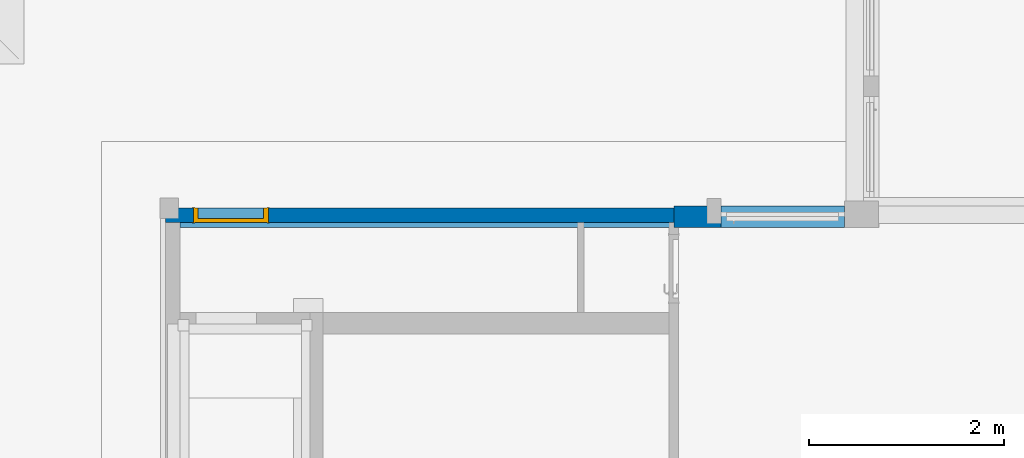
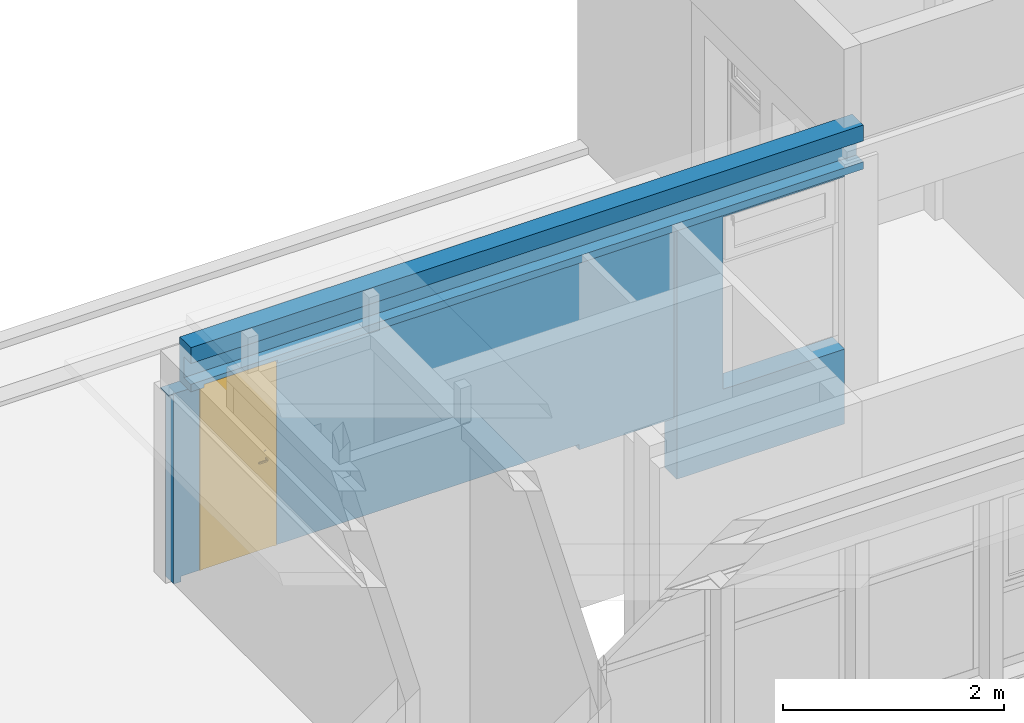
# One storey, part 33 of 49: 3 walls, 1 door, 4 openings.
"""IFC4 building model written with IfcOpenShell, lengths in metres."""

import ifcopenshell
import ifcopenshell.guid

model = None  # the IFC model being written
_history = None  # IfcOwnerHistory: only IFC2X3 demands one
_inside = {}  # id of a spatial element -> (the spatial element, [elements in it])
_under = {}  # id of a project, library or spatial element -> (it, [spatial elements below it])
_declared = {}  # id of a project -> (the project, [libraries it declares])
_typed = {}  # id of a type object -> (the type object, [elements of that type])
_made_of = {}  # id of a material, layer set ... -> (it, [elements and type objects made of it])


def new_model(schema):
    """Start an empty IFC model of exactly this schema.

    Asked for "IFC4X3", IfcOpenShell would pick the latest addendum, in which some entities
    have other attributes; the version numbers below select the first issue.
    IFC2X3 requires an IfcOwnerHistory on every rooted entity: one is made here for all.
    """
    global model, _history
    if schema == "IFC4X3":
        model = ifcopenshell.file(schema_version=(4, 3, 0, 0))
    else:
        model = ifcopenshell.file(schema=schema)
    _inside.clear()
    _under.clear()
    _declared.clear()
    _typed.clear()
    _made_of.clear()
    _history = None
    if model.schema == "IFC2X3":
        org = make("IfcOrganization", Name="unknown")
        user = make(
            "IfcPersonAndOrganization",
            ThePerson=make("IfcPerson", FamilyName="unknown"),
            TheOrganization=org,
        )
        app = make(
            "IfcApplication",
            ApplicationDeveloper=org,
            Version="unknown",
            ApplicationFullName="unknown",
            ApplicationIdentifier="unknown",
        )
        _history = make(
            "IfcOwnerHistory",
            OwningUser=user,
            OwningApplication=app,
            ChangeAction="ADDED",
            CreationDate=0,
        )
    return model


def make(cls, **values):
    """One entity of the class cls with the attributes given. An attribute that is None is left unset."""
    return model.create_entity(
        cls, **{name: value for name, value in values.items() if value is not None}
    )


def entity(cls, *values):
    """Any entity or typed value of the class cls, its attributes in the order of the schema. None: left unset."""
    e = model.create_entity(cls)
    for i, value in enumerate(values):
        if value is not None:
            e[i] = value
    return e


def rooted(cls, **values):
    """An entity with a GlobalId (a new one), such as an element, a storey or a relation."""
    return make(cls, GlobalId=ifcopenshell.guid.new(), OwnerHistory=_history, **values)


def si_unit(unit_type, name, prefix=None):
    """IfcSIUnit, for example si_unit("LENGTHUNIT", "METRE", prefix="MILLI")."""
    return make("IfcSIUnit", UnitType=unit_type, Prefix=prefix, Name=name)


def converted_unit(unit_type, name, factor, base, dimensions=None, offset=None):
    """IfcConversionBasedUnit, such as the inch: factor (a typed value) times the base unit."""
    return make(
        "IfcConversionBasedUnit"
        if offset is None
        else "IfcConversionBasedUnitWithOffset",
        ConversionOffset=offset,
        Dimensions=None
        if dimensions is None
        else entity("IfcDimensionalExponents", *dimensions),
        UnitType=unit_type,
        Name=name,
        ConversionFactor=make(
            "IfcMeasureWithUnit", ValueComponent=factor, UnitComponent=base
        ),
    )


def derived_unit(unit_type, elements):
    """IfcDerivedUnit: a product of units, each with its exponent."""
    return make(
        "IfcDerivedUnit",
        Elements=[
            make("IfcDerivedUnitElement", Unit=unit, Exponent=power)
            for unit, power in elements
        ],
        UnitType=unit_type,
    )


def assignment(units):
    """IfcUnitAssignment: the units of a project."""
    return None if units is None else make("IfcUnitAssignment", Units=units)


def point(xyz):
    """IfcCartesianPoint."""
    return None if xyz is None else make("IfcCartesianPoint", Coordinates=xyz)


def direction(xyz):
    """IfcDirection."""
    return None if xyz is None else make("IfcDirection", DirectionRatios=xyz)


def frame(location, z_axis=None, x_axis=None):
    """IfcAxis2Placement3D, a coordinate frame: its origin and axes. An axis left out is left unset."""
    return make(
        "IfcAxis2Placement3D",
        Location=point(location),
        Axis=direction(z_axis),
        RefDirection=direction(x_axis),
    )


def origin():
    """The frame at (0, 0, 0) with its axes left unset."""
    return frame((0.0, 0.0, 0.0))


def place(relative_to, where):
    """IfcLocalPlacement: puts the frame where relative to a parent placement (None: the world)."""
    return make(
        "IfcLocalPlacement", PlacementRelTo=relative_to, RelativePlacement=where
    )


def context(
    kind, dimensions, precision=None, world=None, true_north=None, identifier=None
):
    """IfcGeometricRepresentationContext, for example the 3D "Model" context."""
    return make(
        "IfcGeometricRepresentationContext",
        ContextIdentifier=identifier,
        ContextType=kind,
        CoordinateSpaceDimension=dimensions,
        Precision=precision,
        WorldCoordinateSystem=world,
        TrueNorth=true_north,
    )


def subcontext(parent, identifier, kind, view, scale=None):
    """IfcGeometricRepresentationSubContext, for example "Body" below "Model"."""
    return make(
        "IfcGeometricRepresentationSubContext",
        ContextIdentifier=identifier,
        ContextType=kind,
        ParentContext=parent,
        TargetScale=scale,
        TargetView=view,
    )


def project(units=None, contexts=None):
    """IfcProject with its units and contexts."""
    return rooted(
        "IfcProject",
        Name="project",
        RepresentationContexts=contexts,
        UnitsInContext=assignment(units),
    )


def spatial(cls, under=None, at=None, **own):
    """A site, building, storey or space (cls), placed at a placement, below another one or the project."""
    s = rooted(cls, ObjectPlacement=at, **own)
    if under is not None:
        _under.setdefault(under.id(), (under, []))[1].append(s)
    return s


def point_list(points):
    """IfcCartesianPointList2D or 3D."""
    cls = (
        "IfcCartesianPointList2D" if len(points[0]) == 2 else "IfcCartesianPointList3D"
    )
    return make(cls, CoordList=points)


def indexed_curve(points, segments=None, self_intersect=None):
    """IfcIndexedPolyCurve: lines and arcs through numbered points (the first is 1)."""
    return make(
        "IfcIndexedPolyCurve",
        Points=point_list(points),
        Segments=segments,
        SelfIntersect=self_intersect,
    )


def outline(outer, holes=None, kind="AREA"):
    """IfcArbitraryClosedProfileDef: a profile drawn as a closed curve; with holes, ...WithVoids."""
    if holes is None:
        return make("IfcArbitraryClosedProfileDef", ProfileType=kind, OuterCurve=outer)
    return make(
        "IfcArbitraryProfileDefWithVoids",
        ProfileType=kind,
        OuterCurve=outer,
        InnerCurves=holes,
    )


def extrude(swept, where, along, depth):
    """IfcExtrudedAreaSolid: the profile swept, set in the frame where, extruded along a direction by depth."""
    return make(
        "IfcExtrudedAreaSolid",
        SweptArea=swept,
        Position=where,
        ExtrudedDirection=direction(along),
        Depth=depth,
    )


def polygons(points, faces, closed=None, point_numbers=None):
    """IfcPolygonalFaceSet: a face is its outer loop, then its inner loops; points numbered from 1."""
    made = []
    for loops in faces:
        if len(loops) == 1:
            made.append(make("IfcIndexedPolygonalFace", CoordIndex=loops[0]))
        else:
            made.append(
                make(
                    "IfcIndexedPolygonalFaceWithVoids",
                    CoordIndex=loops[0],
                    InnerCoordIndices=loops[1:],
                )
            )
    return make(
        "IfcPolygonalFaceSet",
        Coordinates=point_list(points),
        Closed=closed,
        Faces=made,
        PnIndex=point_numbers,
    )


def shape(context_of_items, identifier, shape_type, items):
    """IfcShapeRepresentation: the items that make up one representation, for example the "Body"."""
    return make(
        "IfcShapeRepresentation",
        ContextOfItems=context_of_items,
        RepresentationIdentifier=identifier,
        RepresentationType=shape_type,
        Items=items,
    )


def source(mapping_origin, context_of_items, identifier, shape_type, items):
    """IfcRepresentationMap: a shape defined once, which mapped items show again and again."""
    return make(
        "IfcRepresentationMap",
        MappingOrigin=mapping_origin,
        MappedRepresentation=shape(context_of_items, identifier, shape_type, items),
    )


def transform(
    local_origin,
    x_axis=None,
    y_axis=None,
    z_axis=None,
    scale=None,
    scale2=None,
    scale3=None,
    uniform=True,
):
    """IfcCartesianTransformationOperator3D, or its non-uniform kind. x_axis, y_axis, z_axis: its Axis1, 2, 3."""
    if uniform:
        return make(
            "IfcCartesianTransformationOperator3D",
            Axis1=direction(x_axis),
            Axis2=direction(y_axis),
            LocalOrigin=point(local_origin),
            Scale=scale,
            Axis3=direction(z_axis),
        )
    return make(
        "IfcCartesianTransformationOperator3DnonUniform",
        Axis1=direction(x_axis),
        Axis2=direction(y_axis),
        LocalOrigin=point(local_origin),
        Scale=scale,
        Axis3=direction(z_axis),
        Scale2=scale2,
        Scale3=scale3,
    )


def mapped(mapping_source, mapping_target):
    """IfcMappedItem: shows the shape of a source again, moved by a transform."""
    return make(
        "IfcMappedItem", MappingSource=mapping_source, MappingTarget=mapping_target
    )


def material(Name=None, Category=None):
    """IfcMaterial."""
    return make("IfcMaterial", Name=Name, Category=Category)


def material_list(materials):
    """IfcMaterialList."""
    return make("IfcMaterialList", Materials=materials)


def layer(
    of_material, thickness, ventilated=None, Name=None, Category=None, Priority=None
):
    """IfcMaterialLayer: one layer of a wall or slab, of a material (None: an air gap)."""
    return make(
        "IfcMaterialLayer",
        Material=of_material,
        LayerThickness=thickness,
        IsVentilated=ventilated,
        Name=Name,
        Category=Category,
        Priority=Priority,
    )


def layer_set(layers, Name=None):
    """IfcMaterialLayerSet."""
    return make("IfcMaterialLayerSet", MaterialLayers=layers, LayerSetName=Name)


def constituent(of_material, Name=None, Category=None, fraction=None):
    """IfcMaterialConstituent: one of the materials an element consists of."""
    return make(
        "IfcMaterialConstituent",
        Name=Name,
        Material=of_material,
        Fraction=fraction,
        Category=Category,
    )


def constituent_set(constituents=None, Name=None):
    """IfcMaterialConstituentSet."""
    return make(
        "IfcMaterialConstituentSet", Name=Name, MaterialConstituents=constituents
    )


def made_of(thing, what):
    """Note that an element or type object is made of a material, layer set ...; save() writes the relation."""
    if what is not None:
        _made_of.setdefault(what.id(), (what, []))[1].append(thing)
    return thing


def type_object(cls, material=None, **own):
    """A type object (cls), such as IfcWallType, which elements share."""
    return made_of(rooted(cls, **own), material)


def type_shapes(of_type, sources):
    """Give a type object the sources (RepresentationMaps) that its elements show as mapped items."""
    of_type.RepresentationMaps = sources


def element(
    cls,
    number,
    at=None,
    inside=None,
    cuts=None,
    type_object=None,
    material=None,
    context=None,
    identifier="Body",
    shape_type=None,
    held_by="IfcProductDefinitionShape",
    body=None,
    shapes=None,
    **own,
):
    """One element of the class cls, such as IfcWall. Its Tag is "e" and its number.

    at: its placement. inside: the storey or other place that contains it. cuts: it is an
    opening in that element (IfcRelVoidsElement). A single representation is given by context,
    identifier, shape_type and body (its items); several are given by shapes. held_by: the class
    of the entity that holds the representations. save() writes the other relations.
    """
    e = rooted(cls, Tag="e%d" % number, ObjectPlacement=at, **own)
    if body is not None:
        shapes = [shape(context, identifier, shape_type, body)]
    if shapes is not None:
        e.Representation = make(held_by, Representations=shapes)
    if inside is not None:
        _inside.setdefault(inside.id(), (inside, []))[1].append(e)
    if cuts is not None:
        rooted(
            "IfcRelVoidsElement", RelatingBuildingElement=cuts, RelatedOpeningElement=e
        )
    if type_object is not None:
        _typed.setdefault(type_object.id(), (type_object, []))[1].append(e)
    return made_of(e, material)


def fill(opening, filler):
    """IfcRelFillsElement: the door or window that sits in an opening."""
    return rooted(
        "IfcRelFillsElement",
        RelatingOpeningElement=opening,
        RelatedBuildingElement=filler,
    )


def aggregate(whole, parts):
    """IfcRelAggregates: a whole, such as a stair, and the parts it consists of."""
    return rooted("IfcRelAggregates", RelatingObject=whole, RelatedObjects=parts)


def save(model, path):
    """Write the relations noted so far, then the file.

    IfcRelAggregates (storeys below a building ...), IfcRelContainedInSpatialStructure (elements
    in a storey), IfcRelDefinesByType, IfcRelAssociatesMaterial and IfcRelDeclares: one each for
    every whole, place, type object, material and project.
    """
    for whole, parts in _under.values():
        aggregate(whole, parts)
    for where, things in _inside.values():
        rooted(
            "IfcRelContainedInSpatialStructure",
            RelatedElements=things,
            RelatingStructure=where,
        )
    for kind, things in _typed.values():
        rooted("IfcRelDefinesByType", RelatedObjects=things, RelatingType=kind)
    for what, things in _made_of.values():
        rooted("IfcRelAssociatesMaterial", RelatedObjects=things, RelatingMaterial=what)
    for by, libraries in _declared.values():
        rooted("IfcRelDeclares", RelatingContext=by, RelatedDefinitions=libraries)
    model.write(path)


model = new_model("IFC4")

# Units and contexts
model_context = context("Model", 3, precision=1e-05, world=origin(), true_north=direction((6.12303176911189e-17, 1.0)))
body_context = subcontext(model_context, "Body", "Model", "MODEL_VIEW")
ifc_project = project(units=[si_unit("LENGTHUNIT", "METRE"), si_unit("AREAUNIT", "SQUARE_METRE"), si_unit("VOLUMEUNIT", "CUBIC_METRE"), converted_unit("PLANEANGLEUNIT", "DEGREE", entity("IfcRatioMeasure", 0.0174532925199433), si_unit("PLANEANGLEUNIT", "RADIAN"), dimensions=[0, 0, 0, 0, 0, 0, 0]), si_unit("MASSUNIT", "GRAM", prefix="KILO"), derived_unit("MASSDENSITYUNIT", [(si_unit("MASSUNIT", "GRAM", prefix="KILO"), 1), (si_unit("LENGTHUNIT", "METRE"), -3)]), derived_unit("MOMENTOFINERTIAUNIT", [(si_unit("LENGTHUNIT", "METRE"), 4)]), si_unit("TIMEUNIT", "SECOND"), si_unit("FREQUENCYUNIT", "HERTZ"), si_unit("THERMODYNAMICTEMPERATUREUNIT", "DEGREE_CELSIUS"), derived_unit("THERMALTRANSMITTANCEUNIT", [(si_unit("MASSUNIT", "GRAM", prefix="KILO"), 1), (si_unit("THERMODYNAMICTEMPERATUREUNIT", "KELVIN"), -1), (si_unit("TIMEUNIT", "SECOND"), -3)]), derived_unit("VOLUMETRICFLOWRATEUNIT", [(si_unit("LENGTHUNIT", "METRE"), 3), (si_unit("TIMEUNIT", "SECOND"), -1)]), si_unit("ELECTRICCURRENTUNIT", "AMPERE"), si_unit("ELECTRICVOLTAGEUNIT", "VOLT"), si_unit("POWERUNIT", "WATT"), si_unit("FORCEUNIT", "NEWTON", prefix="KILO"), si_unit("ILLUMINANCEUNIT", "LUX"), si_unit("LUMINOUSFLUXUNIT", "LUMEN"), si_unit("LUMINOUSINTENSITYUNIT", "CANDELA"), derived_unit("USERDEFINED", [(si_unit("MASSUNIT", "GRAM", prefix="KILO"), -1), (si_unit("LENGTHUNIT", "METRE"), -2), (si_unit("TIMEUNIT", "SECOND"), 3), (si_unit("LUMINOUSFLUXUNIT", "LUMEN"), 1)]), derived_unit("LINEARVELOCITYUNIT", [(si_unit("LENGTHUNIT", "METRE"), 1), (si_unit("TIMEUNIT", "SECOND"), -1)]), si_unit("PRESSUREUNIT", "PASCAL"), derived_unit("USERDEFINED", [(si_unit("LENGTHUNIT", "METRE"), -2), (si_unit("MASSUNIT", "GRAM", prefix="KILO"), 1), (si_unit("TIMEUNIT", "SECOND"), -2)]), derived_unit("LINEARFORCEUNIT", [(si_unit("MASSUNIT", "GRAM", prefix="KILO"), 1), (si_unit("LENGTHUNIT", "METRE"), 1), (si_unit("TIMEUNIT", "SECOND"), -2), (si_unit("LENGTHUNIT", "METRE"), -1)]), derived_unit("PLANARFORCEUNIT", [(si_unit("MASSUNIT", "GRAM", prefix="KILO"), 1), (si_unit("LENGTHUNIT", "METRE"), 1), (si_unit("TIMEUNIT", "SECOND"), -2), (si_unit("LENGTHUNIT", "METRE"), -2)])], contexts=[model_context])

# Site, building, storey
site_placement = place(None, origin())
site = spatial("IfcSite", under=ifc_project, at=site_placement, Name="Default", CompositionType="ELEMENT")
building_placement = place(site_placement, origin())
building = spatial("IfcBuilding", under=site, at=building_placement, Name="HOTEL CONSULAIRE BOULOGNE SUR MER", CompositionType="ELEMENT")
storey_placement = place(building_placement, frame((0.0, 0.0, 6.81974152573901)))
storey = spatial("IfcBuildingStorey", under=building, at=storey_placement, Name="Niveau 2", CompositionType="ELEMENT", Elevation=6.81974152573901)

# Wall, openings
ifc_material_1 = material(Name="Mur par défaut", Category="Divers")
ifc_layer_1 = layer(ifc_material_1, 0.2, Name="Mur par défaut", Category="Divers")
ifc_layer_set_1 = layer_set([ifc_layer_1], Name="Mur de base:Générique - Ext. 200 mm")
wall_type_1 = type_object("IfcWallType", Name="Mur de base:Générique - Ext. 200 mm", PredefinedType="NOTDEFINED", material=ifc_layer_set_1)
wall_1_placement = place(storey_placement, frame((0.291635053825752, -14.662910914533, 2.73999999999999)))
wall_1 = element("IfcWall", 1, at=wall_1_placement, inside=storey, type_object=wall_type_1, material=ifc_layer_set_1, Name="Mur de base:Générique - Ext. 200 mm", ObjectType="Mur de base:Générique - Ext. 200 mm", PredefinedType="NOTDEFINED", context=body_context, shape_type="Tessellation", body=[
    polygons([(7.01734521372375, 0.100000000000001, 0.0), (7.01734521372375, -0.0999999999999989, 0.0), (4.14935194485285, -0.0999999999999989, 0.0), (4.07935194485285, -0.0999999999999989, 0.0), (0.906000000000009, -0.0999999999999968, 0.0), (0.906000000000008, 0.100000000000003, 0.0), (5.07034524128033, 0.100000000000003, 0.0), (6.83734521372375, 0.100000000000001, 0.0), (7.01734521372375, -0.0999999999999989, 0.486999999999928), (6.70467458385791e-16, -0.0999999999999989, 0.486999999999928), (5.35109067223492e-16, -0.0999999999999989, 0.312000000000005), (7.01734521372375, -0.0999999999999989, 0.312000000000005), (2.98231882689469e-16, -0.0999999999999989, 0.0), (0.136000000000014, -0.0999999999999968, 0.0), (0.136000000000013, -0.0999999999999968, 0.0350000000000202), (0.906000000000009, -0.0999999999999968, 0.0350000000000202), (7.01734521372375, -0.0999999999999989, 0.0820000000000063), (4.14935194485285, -0.0999999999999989, 0.0820000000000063), (4.07935194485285, -0.0999999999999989, 0.0820000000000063), (3.65911078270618e-16, -0.0999999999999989, 0.0820000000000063), (-1.69379142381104e-17, 0.100000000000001, 0.486999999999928), (6.83734521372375, 0.100000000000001, 0.486999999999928), (6.92734521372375, 0.100000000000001, 0.486999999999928), (7.01734521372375, 0.100000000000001, 0.486999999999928), (0.906000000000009, 0.100000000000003, 0.0350000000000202), (0.136000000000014, 0.100000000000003, 0.0350000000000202), (0.136000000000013, 0.100000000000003, 0.0), (5.07412813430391e-17, 0.100000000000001, 0.0), (5.07412813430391e-17, 0.100000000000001, 0.1), (-1.69379142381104e-17, 0.100000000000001, 0.408000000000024), (2.44819131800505e-16, -0.0499999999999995, 0.0), (7.01734521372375, -0.0601760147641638, 0.486999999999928), (7.01734521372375, 0.0298239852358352, 0.486999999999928), (1.13940608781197e-16, 0.0250000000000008, 0.0820000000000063), (1.13940608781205e-16, 0.0249999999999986, 0.312000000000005), (7.01734521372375, -0.0601760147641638, 0.312000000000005), (7.01734521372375, 0.0250000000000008, 0.312000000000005), (7.01734521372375, 0.0250000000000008, 0.217000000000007), (7.01734521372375, 0.0250000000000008, 0.0820000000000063), (6.82183271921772, 0.0250000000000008, 0.0820000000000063)], [[[4, 5, 6, 7, 8, 1, 2, 3]], [[14, 13, 31, 28, 27]], [[15, 26, 25, 16]], [[36, 12, 11, 35, 37]], [[10, 11, 12, 9]], [[15, 16, 5, 4, 3, 2, 17, 18, 19, 20, 13, 14]], [[40, 39, 38, 37, 35, 34]], [[23, 24, 1, 8, 7, 6, 25, 26, 27, 28, 29, 30, 21, 22]], [[10, 9, 32, 33, 24, 23, 22, 21]], [[34, 20, 19, 18, 17, 39, 40]], [[20, 34, 35, 11, 10, 21, 30, 29, 28, 31, 13]], [[5, 16, 25, 6]], [[39, 17, 2, 1, 24, 33, 32, 9, 12, 36, 37, 38]], [[14, 27, 26, 15]]], closed=True),
])
opening_1_placement = place(storey_placement, frame((0.291635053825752, -14.662910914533, 2.73999999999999)))
element("IfcOpeningElement", 2, at=opening_1_placement, cuts=wall_1, Name="Mur de base:Générique - Ext. 200 mm:1", ObjectType="Opening", PredefinedType="OPENING", context=body_context, shape_type="SweptSolid", body=[
    extrude(outline(indexed_curve([(-2.86231277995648, -0.0714285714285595), (-2.66680028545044, -0.0714285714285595), (4.15503243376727, -0.0714285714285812), (4.15503243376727, 0.0535714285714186), (0.0756804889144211, 0.0535714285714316), (0.00568048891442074, 0.0535714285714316), (-2.86231277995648, 0.0535714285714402), (-2.86231277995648, -0.0714285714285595)], self_intersect=False)), frame((4.15503243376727, -0.0464285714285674, 0.0820000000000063), z_axis=(0.0, 0.0, 1.0), x_axis=(-1.0, 0.0, 0.0)), (0.0, 0.0, 1.0), 0.229999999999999),
])
opening_2_placement = place(wall_1_placement, frame((0.136000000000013, -1.574, -2.03999999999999)))
element("IfcOpeningElement", 3, at=opening_2_placement, cuts=wall_1, Name="Mur de base:Générique - Ext. 200 mm", ObjectType="Opening", PredefinedType="OPENING", context=body_context, shape_type="SweptSolid", body=[
    extrude(outline(indexed_curve([(-1.03750000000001, -0.384999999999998), (1.0375, -0.384999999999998), (1.0375, 0.384999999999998), (-1.03750000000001, 0.384999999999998), (-1.03750000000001, -0.384999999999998)], self_intersect=False)), frame((0.384999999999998, 0.0, 1.0375), z_axis=(0.0, 1.0, 0.0), x_axis=(0.0, 0.0, 1.0)), (0.0, 0.0, 1.0), 3.048),
])

# Wall, opening
ifc_layer_2 = layer(ifc_material_1, 0.22, Name="Mur par défaut", Category="Divers")
ifc_layer_set_2 = layer_set([ifc_layer_2], Name="Mur de base:Générique - Ext. 220 mm")
wall_type_2 = type_object("IfcWallType", Name="Mur de base:Générique - Ext. 220 mm", PredefinedType="NOTDEFINED", material=ifc_layer_set_2)
wall_2_placement = place(storey_placement, frame((5.36198029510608, -14.6529109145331, 0.0)))
wall_2 = element("IfcWall", 4, at=wall_2_placement, inside=storey, type_object=wall_type_2, material=ifc_layer_set_2, Name="Mur de base:Générique - Ext. 220 mm", ObjectType="Mur de base:Générique - Ext. 220 mm", PredefinedType="NOTDEFINED", context=body_context, shape_type="Tessellation", body=[
    polygons([(1.75148747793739, 0.109999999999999, 2.73999999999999), (1.75148747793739, -0.110000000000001, 2.73999999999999), (1.75148747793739, -0.110000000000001, 2.72473410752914), (1.75148747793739, 0.109999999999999, 2.72473410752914), (1.34725941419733e-15, -0.109999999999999, 0.0), (0.0500000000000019, -0.109999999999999, 0.0), (1.75148747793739, -0.110000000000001, 0.0), (1.75148747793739, -0.110000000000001, 0.824734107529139), (0.48223124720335, -0.110000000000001, 0.824734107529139), (0.48223124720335, -0.110000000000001, 2.72473410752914), (2.6439228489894e-16, -0.109999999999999, 2.73999999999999), (1.75148747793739, 0.109999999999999, 0.0), (6.65560619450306e-16, 0.110000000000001, 0.0), (1.7484277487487e-15, 0.110000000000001, 2.73999999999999), (0.48223124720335, 0.109999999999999, 2.72473410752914), (0.482231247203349, 0.109999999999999, 0.824734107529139), (1.75148747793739, 0.109999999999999, 0.824734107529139), (1.09460740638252e-16, -0.0599999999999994, 0.0), (7.27533237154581e-16, 0.0900000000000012, 0.0), (7.27533237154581e-16, 0.0900000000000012, 2.73999999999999), (1.09460740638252e-16, -0.0599999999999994, 2.73999999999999)], [[[2, 3, 4, 1]], [[8, 7, 12, 17]], [[9, 16, 15, 10]], [[11, 5, 6, 7, 8, 9, 10, 3, 2]], [[17, 12, 13, 14, 1, 4, 15, 16]], [[6, 5, 18, 19, 13, 12, 7]], [[10, 15, 4, 3]], [[11, 2, 1, 14, 20, 21]], [[9, 8, 17, 16]], [[11, 21, 20, 14, 13, 19, 18, 5]]], closed=True),
])
opening_3_placement = place(wall_2_placement, frame((0.482231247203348, -0.262400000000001, 0.824734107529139)))
element("IfcOpeningElement", 5, at=opening_3_placement, cuts=wall_2, Name="Mur de base:Générique - Ext. 220 mm", ObjectType="Opening", PredefinedType="OPENING", context=body_context, shape_type="SweptSolid", body=[
    extrude(outline(indexed_curve([(-0.950000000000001, -0.634628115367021), (0.95, -0.634628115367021), (0.95, 0.63462811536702), (-0.950000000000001, 0.63462811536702), (-0.950000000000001, -0.634628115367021)], self_intersect=False)), frame((0.634628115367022, 0.0, 0.950000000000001), z_axis=(0.0, 1.0, 0.0), x_axis=(0.0, 0.0, 1.0)), (0.0, 0.0, 1.0), 0.5248),
])

# Wall, opening, door
ifc_layer_3 = layer(ifc_material_1, 0.15, Name="Mur par défaut", Category="Divers")
ifc_layer_set_3 = layer_set([ifc_layer_3], Name="Mur de base:Générique - Ext. 150 mm")
wall_type_3 = type_object("IfcWallType", Name="Mur de base:Générique - Ext. 150 mm", PredefinedType="NOTDEFINED", material=ifc_layer_set_3)
wall_3_placement = place(storey_placement, frame((0.0916350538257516, -14.637910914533, 0.642000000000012)))
wall_3 = element("IfcWall", 6, at=wall_3_placement, inside=storey, type_object=wall_type_3, material=ifc_layer_set_3, Name="Mur de base:Générique - Ext. 150 mm", ObjectType="Mur de base:Générique - Ext. 150 mm", PredefinedType="NOTDEFINED", context=body_context, shape_type="Tessellation", body=[
    polygons([(0.336000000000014, 0.0750000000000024, 2.09799999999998), (0.336000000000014, 0.0750000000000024, 0.0579999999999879), (0.124999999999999, 0.0750000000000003, 0.0579999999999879), (0.124999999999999, 0.0750000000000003, 0.0), (0.0499999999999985, 0.0750000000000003, 0.0), (0.0499999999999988, 0.0750000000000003, 2.088), (-1.81153428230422e-20, 0.0750000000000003, 2.088), (-1.81153428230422e-20, 0.0750000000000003, 2.09799999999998), (0.0499999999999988, 0.0750000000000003, 2.09799999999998), (0.2, 0.0750000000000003, 2.09799999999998), (5.32455713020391e-16, -0.0750000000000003, 2.09799999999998), (0.200000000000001, -0.0750000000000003, 2.09799999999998), (0.336000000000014, -0.0749999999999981, 2.09799999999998), (0.124999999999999, -0.0750000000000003, 0.0579999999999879), (0.336000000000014, -0.0750000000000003, 0.0579999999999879), (0.199999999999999, -0.0750000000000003, 0.0579999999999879), (2.61738930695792e-16, -0.0750000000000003, 2.088), (0.049999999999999, -0.0750000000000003, 2.088), (0.049999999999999, -0.0750000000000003, 0.0), (0.124999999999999, -0.0750000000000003, 0.0), (0.124999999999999, -0.0309074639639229, 0.0)], [[[2, 3, 4, 5, 6, 7, 8, 9, 10, 1]], [[12, 13, 1, 10, 9, 8, 11]], [[16, 14, 3, 2, 15]], [[18, 17, 7, 6]], [[21, 20, 19, 5, 4]], [[18, 19, 20, 14, 16, 15, 13, 12, 11, 17]], [[15, 2, 1, 13]], [[3, 14, 20, 21, 4]], [[6, 5, 19, 18]], [[8, 7, 17, 11]]], closed=True),
    polygons([(5.27034524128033, -0.0750000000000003, 0.0), (4.27935194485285, -0.0750000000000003, 0.0), (4.27935194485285, 0.0750000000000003, 0.0), (5.27034524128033, 0.0750000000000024, 0.0), (1.10600000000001, -0.0749999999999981, 2.09799999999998), (1.10600000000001, -0.0749999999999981, 0.0579999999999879), (4.27935194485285, -0.0750000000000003, 0.0579999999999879), (5.27034524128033, -0.0749999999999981, 2.09799999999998), (4.34935194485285, -0.0750000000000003, 2.09799999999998), (4.27935194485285, -0.0750000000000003, 2.09799999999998), (1.10600000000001, 0.0750000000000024, 0.0579999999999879), (1.10600000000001, 0.0750000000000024, 2.09799999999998), (5.27034524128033, 0.0750000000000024, 2.09799999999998), (4.27935194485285, 0.0750000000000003, 0.0579999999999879)], [[[4, 1, 2, 3]], [[6, 11, 14, 7]], [[5, 6, 7, 2, 1, 8, 9, 10]], [[14, 11, 12, 13, 4, 3]], [[8, 1, 4, 13]], [[9, 8, 13, 12, 5, 10]], [[5, 12, 11, 6]], [[7, 14, 3, 2]]], closed=True),
])
opening_4_placement = place(wall_3_placement, frame((1.10600000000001, 0.0750000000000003, 0.057999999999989)))
opening_4 = element("IfcOpeningElement", 7, at=opening_4_placement, cuts=wall_3, Name="Int. Simple:0.70x2.04:1", ObjectType="Opening", PredefinedType="OPENING", context=body_context, shape_type="SweptSolid", body=[
    extrude(outline(indexed_curve([(0.0, 0.769999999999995), (0.0, -6.02924431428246e-30), (2.07500000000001, -6.02924431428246e-30), (2.07500000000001, 0.769999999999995), (0.0, 0.769999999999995)], self_intersect=False)), frame((0.0, 0.0, 0.0), z_axis=(0.0, -1.0, 0.0), x_axis=(0.0, 0.0, 1.0)), (0.0, 0.0, 1.0), 0.15),
])
ifc_material_2 = material(Name="Finition Peinture - Blanc satiné", Category="Peinture")
ifc_constituent_1 = constituent(ifc_material_2, Name="Finition Peinture - Blanc satiné", Category="Matériaux")
ifc_material_3 = material(Name="Bois - Panneau de porte", Category="Bois")
ifc_constituent_2 = constituent(ifc_material_3, Name="Bois - Panneau de porte", Category="Matériaux")
ifc_material_4 = material(Name="Bois - Cadre de porte", Category="Bois")
ifc_constituent_3 = constituent(ifc_material_4, Name="Bois - Cadre de porte", Category="Matériaux")
ifc_constituent_set = constituent_set(constituents=[ifc_constituent_1, ifc_constituent_2, ifc_constituent_3], Name="MaterialConstituentSet")
ifc_material_list = material_list([ifc_material_3, ifc_material_2, ifc_material_4, ifc_material_4])
door_type = type_object("IfcDoorType", Name="Int. Simple:0.70x2.04", OperationType="NOTDEFINED", PredefinedType="DOOR", material=ifc_material_list)
shared_shape = source(origin(), body_context, "Body", "Tessellation", [
    polygons([(0.765000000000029, -0.00500000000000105, 0.870000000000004), (0.765000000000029, -0.00500000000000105, 1.08), (0.75535276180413, -0.00500000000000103, 1.08399601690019), (0.745000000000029, -0.00500000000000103, 1.08535898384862), (0.734647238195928, -0.00500000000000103, 1.08399601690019), (0.72500000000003, -0.00500000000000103, 1.08), (0.725000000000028, -0.00500000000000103, 0.870000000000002), (0.734647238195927, -0.00500000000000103, 0.866003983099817), (0.745000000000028, -0.00500000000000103, 0.86464101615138), (0.755352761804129, -0.00500000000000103, 0.866003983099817), (0.765000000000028, -1.04902753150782e-15, 0.870000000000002), (0.755352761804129, -1.04902753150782e-15, 0.866003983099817), (0.745000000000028, -1.04056763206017e-15, 0.86464101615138), (0.734647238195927, -1.04056763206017e-15, 0.866003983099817), (0.725000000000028, -1.03210773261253e-15, 0.870000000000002), (0.725000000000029, -1.03210773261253e-15, 1.08), (0.734647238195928, -1.04056763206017e-15, 1.08399601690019), (0.745000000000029, -1.04056763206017e-15, 1.08535898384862), (0.75535276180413, -1.04902753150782e-15, 1.08399601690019), (0.765000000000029, -1.04902753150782e-15, 1.08)], [[[1, 2, 3, 4, 5, 6, 7, 8, 9, 10]], [[20, 11, 12, 13, 14, 15, 16, 17, 18, 19]], [[10, 12, 11, 1]], [[9, 13, 12, 10]], [[8, 14, 13, 9]], [[8, 7, 15, 14]], [[15, 7, 6, 16]], [[5, 17, 16, 6]], [[4, 18, 17, 5]], [[3, 19, 18, 4]], [[3, 2, 20, 19]], [[11, 20, 2, 1]]], closed=True),
    polygons([(0.72500000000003, 0.0399999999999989, 1.08), (0.725000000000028, 0.0399999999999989, 0.870000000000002), (0.734647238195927, 0.0399999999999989, 0.866003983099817), (0.745000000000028, 0.0399999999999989, 0.86464101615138), (0.755352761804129, 0.0399999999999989, 0.866003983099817), (0.765000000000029, 0.0399999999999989, 0.870000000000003), (0.765000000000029, 0.0399999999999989, 1.08), (0.75535276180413, 0.0399999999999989, 1.08399601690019), (0.745000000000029, 0.0399999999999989, 1.08535898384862), (0.734647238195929, 0.0399999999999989, 1.08399601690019), (0.72500000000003, 0.044999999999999, 1.08), (0.734647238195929, 0.0449999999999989, 1.08399601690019), (0.745000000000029, 0.0449999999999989, 1.08535898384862), (0.75535276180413, 0.0449999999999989, 1.08399601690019), (0.765000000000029, 0.0449999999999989, 1.08), (0.765000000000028, 0.0449999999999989, 0.870000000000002), (0.755352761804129, 0.0449999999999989, 0.866003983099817), (0.745000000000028, 0.0449999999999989, 0.86464101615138), (0.734647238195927, 0.0449999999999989, 0.866003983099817), (0.725000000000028, 0.044999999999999, 0.870000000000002)], [[[6, 7, 8, 9, 10, 1, 2, 3, 4, 5]], [[13, 14, 15, 16, 17, 18, 19, 20, 11, 12]], [[10, 12, 11, 1]], [[9, 13, 12, 10]], [[8, 14, 13, 9]], [[8, 7, 15, 14]], [[16, 15, 7, 6]], [[5, 17, 16, 6]], [[4, 18, 17, 5]], [[3, 19, 18, 4]], [[3, 2, 20, 19]], [[20, 2, 1, 11]]], closed=True),
    polygons([(0.751000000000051, -0.00500000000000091, 1.00699999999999), (0.75100000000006, -0.00500000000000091, 0.992999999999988), (0.747025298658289, -0.00500000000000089, 0.99221955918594), (0.74297470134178, -0.00500000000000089, 0.992219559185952), (0.739000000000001, -0.00500000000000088, 0.993000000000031), (0.739000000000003, -0.00500000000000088, 1.007), (0.742974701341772, -0.00500000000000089, 1.00778044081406), (0.747025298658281, -0.00500000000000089, 1.00778044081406), (0.739000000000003, -0.0276803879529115, 1.007), (0.742974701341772, -0.0293267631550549, 1.00778044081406), (0.747025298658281, -0.0310045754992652, 1.00778044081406), (0.751000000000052, -0.0326509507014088, 1.007), (0.739000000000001, -0.0276803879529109, 0.993000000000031), (0.75100000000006, -0.0326509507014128, 0.992999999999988), (0.747025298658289, -0.0310045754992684, 0.99221955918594), (0.74297470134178, -0.0293267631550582, 0.992219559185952), (0.727652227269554, -0.0390281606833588, 1.007), (0.729298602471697, -0.0430028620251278, 1.00778044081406), (0.730976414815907, -0.0470534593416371, 1.00778044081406), (0.732622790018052, -0.051028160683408, 1.007), (0.727652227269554, -0.0390281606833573, 0.993000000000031), (0.732622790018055, -0.0510281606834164, 0.992999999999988), (0.730976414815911, -0.0470534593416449, 0.99221955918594), (0.729298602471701, -0.0430028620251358, 0.992219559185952), (0.644981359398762, -0.0510281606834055, 1.007), (0.644981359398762, -0.0470534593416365, 1.00778044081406), (0.644981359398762, -0.0430028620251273, 1.00778044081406), (0.644981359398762, -0.0390281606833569, 1.00699999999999), (0.644981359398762, -0.0390281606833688, 0.993000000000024), (0.644981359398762, -0.0430028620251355, 0.992219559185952), (0.644981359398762, -0.0470534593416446, 0.99221955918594), (0.644981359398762, -0.0510281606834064, 0.992999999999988), (0.692692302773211, -0.051028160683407, 1.007), (0.687139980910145, -0.045028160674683, 1.0078786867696), (0.686316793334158, -0.0390281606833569, 1.007), (0.692692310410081, -0.0510281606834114, 0.992999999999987), (0.687139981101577, -0.0450281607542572, 0.992121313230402), (0.68631679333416, -0.0390281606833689, 0.993000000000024)], [[[7, 8, 1, 2, 3, 4, 5, 6]], [[17, 21, 38, 29, 28, 35]], [[1, 8, 11, 12]], [[8, 7, 10, 18, 19, 11]], [[7, 6, 9, 10]], [[13, 9, 6, 5]], [[25, 26, 27, 28, 29, 30, 31, 32]], [[4, 16, 13, 5]], [[4, 3, 15, 23, 24, 16]], [[2, 14, 15, 3]], [[12, 14, 2, 1]], [[12, 11, 19, 20]], [[10, 9, 17, 18]], [[21, 17, 9, 13]], [[13, 16, 24, 21]], [[15, 14, 22, 23]], [[20, 22, 14, 12]], [[34, 26, 33]], [[33, 26, 25]], [[33, 20, 19]], [[18, 35, 34]], [[35, 18, 17]], [[28, 27, 35]], [[34, 27, 26]], [[34, 35, 27]], [[34, 33, 19]], [[18, 34, 19]], [[37, 30, 38]], [[31, 37, 36]], [[24, 38, 21]], [[30, 29, 38]], [[31, 36, 32]], [[36, 23, 22]], [[37, 23, 36]], [[37, 24, 23]], [[37, 38, 24]], [[30, 37, 31]], [[22, 20, 33, 25, 32, 36]]], closed=True),
    polygons([(0.73900000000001, 0.0449999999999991, 0.993000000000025), (0.742974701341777, 0.0449999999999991, 0.992219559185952), (0.747025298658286, 0.0449999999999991, 0.99221955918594), (0.751000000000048, 0.0449999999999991, 0.992999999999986), (0.751000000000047, 0.0449999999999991, 1.007), (0.747025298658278, 0.0449999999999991, 1.00778044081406), (0.742974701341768, 0.0449999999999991, 1.00778044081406), (0.738999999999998, 0.0449999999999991, 1.007), (0.738999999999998, 0.067485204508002, 1.007), (0.738999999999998, 0.0674852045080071, 0.993000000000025), (0.751000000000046, 0.0724557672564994, 1.007), (0.747025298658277, 0.070809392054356, 1.00778044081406), (0.742974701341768, 0.0691315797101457, 1.00778044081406), (0.751000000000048, 0.0724557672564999, 0.992999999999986), (0.742974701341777, 0.0691315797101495, 0.992219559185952), (0.747025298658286, 0.0708093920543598, 0.99221955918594), (0.72751471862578, 0.0789704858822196, 1.007), (0.727514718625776, 0.0789704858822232, 0.993000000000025), (0.732485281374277, 0.0909704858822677, 1.007), (0.730838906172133, 0.0869957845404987, 1.00778044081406), (0.729161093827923, 0.0829451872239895, 1.00778044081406), (0.732485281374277, 0.0909704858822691, 0.992999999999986), (0.729161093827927, 0.0829451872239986, 0.992219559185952), (0.730838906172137, 0.0869957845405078, 0.99221955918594), (0.644954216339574, 0.0789704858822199, 0.993000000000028), (0.644954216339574, 0.0789704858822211, 1.007), (0.644954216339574, 0.0829451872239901, 1.00778044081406), (0.644954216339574, 0.0869957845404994, 1.00778044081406), (0.644954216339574, 0.0909704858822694, 1.007), (0.644954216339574, 0.0909704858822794, 0.992999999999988), (0.644954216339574, 0.086995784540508, 0.99221955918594), (0.644954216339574, 0.0829451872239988, 0.992219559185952), (0.69255479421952, 0.0909704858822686, 1.007), (0.687057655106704, 0.0849704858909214, 1.0078786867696), (0.686234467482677, 0.0789704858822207, 1.007), (0.692554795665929, 0.0909704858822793, 0.992999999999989), (0.687057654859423, 0.0849704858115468, 0.992121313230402), (0.686234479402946, 0.0789704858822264, 0.993000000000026)], [[[2, 3, 4, 5, 6, 7, 8, 1]], [[18, 17, 35, 26, 25, 38]], [[9, 10, 1, 8]], [[27, 28, 29, 30, 31, 32, 25, 26]], [[7, 13, 9, 8]], [[7, 6, 12, 20, 21, 13]], [[5, 11, 12, 6]], [[11, 5, 4, 14]], [[4, 3, 16, 14]], [[3, 2, 15, 23, 24, 16]], [[2, 1, 10, 15]], [[17, 18, 10, 9]], [[9, 13, 21, 17]], [[11, 19, 20, 12]], [[22, 19, 11, 14]], [[14, 16, 24, 22]], [[15, 10, 18, 23]], [[34, 27, 35]], [[28, 34, 33]], [[21, 35, 17]], [[27, 26, 35]], [[28, 33, 29]], [[33, 20, 19]], [[34, 20, 33]], [[34, 21, 20]], [[34, 35, 21]], [[27, 34, 28]], [[19, 22, 36, 30, 29, 33]], [[37, 31, 36]], [[36, 31, 30]], [[36, 22, 24]], [[23, 38, 37]], [[38, 23, 18]], [[25, 32, 38]], [[37, 32, 31]], [[37, 38, 32]], [[37, 36, 24]], [[23, 37, 24]]], closed=True),
    polygons([(0.805000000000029, 0.04, 2.04), (0.805000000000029, 0.04, 0.0), (0.105000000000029, 0.04, 0.0), (0.105000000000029, 0.04, 2.04), (0.805000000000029, 5.07593966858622e-17, 2.04), (0.105000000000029, 5.07593966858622e-17, 2.04), (0.105000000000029, 5.07593966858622e-17, 0.0), (0.805000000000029, 5.07593966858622e-17, 0.0)], [[[4, 1, 2, 3]], [[5, 6, 7, 8]], [[6, 5, 1, 4]], [[6, 4, 3, 7]], [[8, 7, 3, 2]], [[8, 2, 1, 5]]], closed=True),
    polygons([(0.840000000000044, 1.69197988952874e-17, 0.0), (0.805000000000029, 1.69197988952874e-17, 0.0), (0.805000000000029, 0.0400000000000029, 0.0), (0.790000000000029, 0.0400000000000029, 0.0), (0.790000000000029, 0.150000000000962, 0.0), (0.840000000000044, 0.150000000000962, 0.0), (0.840000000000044, 0.150000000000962, 2.07500000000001), (0.840000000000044, 1.69197988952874e-17, 2.07500000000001), (0.790000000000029, 0.150000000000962, 2.025), (0.120000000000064, 0.150000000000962, 2.025), (0.120000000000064, 0.150000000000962, -7.387563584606e-25), (0.0700000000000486, 0.150000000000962, -3.70349875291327e-24), (0.0700000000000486, 0.150000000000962, 2.07500000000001), (0.790000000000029, 0.0400000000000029, 2.025), (0.80500000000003, 0.0400000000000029, 2.04), (0.105000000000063, 0.0400000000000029, 2.04), (0.105000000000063, 0.0400000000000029, 5.78704106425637e-24), (0.120000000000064, 0.0400000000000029, -8.76520027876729e-25), (0.120000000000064, 0.0400000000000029, 2.025), (0.805000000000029, 1.69197988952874e-17, 2.04), (0.0700000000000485, 1.69197988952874e-17, 2.07500000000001), (0.0700000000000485, 1.69197988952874e-17, 4.03399441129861e-24), (0.105000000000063, 1.69197988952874e-17, 0.0), (0.105000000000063, 1.69197988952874e-17, 2.04)], [[[5, 6, 1, 2, 3, 4]], [[17, 23, 22, 12, 11, 18]], [[19, 10, 9, 14]], [[24, 16, 15, 20]], [[7, 8, 1, 6]], [[18, 11, 10, 19]], [[17, 16, 24, 23]], [[9, 10, 11, 12, 13, 7, 6, 5]], [[9, 5, 4, 14]], [[15, 3, 2, 20]], [[12, 22, 21, 13]], [[19, 14, 4, 3, 15, 16, 17, 18]], [[24, 20, 2, 1, 8, 21, 22, 23]], [[21, 8, 7, 13]]], closed=True),
    polygons([(0.825000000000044, 0.150000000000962, 0.0), (0.825000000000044, 0.155000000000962, 0.0), (0.855000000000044, 0.155000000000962, 0.0), (0.855000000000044, 0.150000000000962, 0.0), (0.855000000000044, 0.150000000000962, 2.09000000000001), (0.0550000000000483, 0.150000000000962, 2.09000000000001), (0.0550000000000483, 0.150000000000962, -2.4282291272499e-24), (0.0850000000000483, 0.150000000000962, 7.04970407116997e-25), (0.0850000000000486, 0.150000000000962, 2.06000000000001), (0.825000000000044, 0.150000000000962, 2.06000000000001), (0.855000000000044, 0.155000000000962, 2.09000000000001), (0.825000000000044, 0.155000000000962, 2.06000000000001), (0.0850000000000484, 0.155000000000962, 2.06000000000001), (0.0850000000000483, 0.155000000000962, -2.33547019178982e-24), (0.0550000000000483, 0.155000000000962, 5.59741114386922e-25), (0.0550000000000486, 0.155000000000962, 2.09000000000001)], [[[2, 3, 4, 1]], [[8, 7, 15, 14]], [[13, 12, 10, 9]], [[9, 10, 1, 4, 5, 6, 7, 8]], [[5, 4, 3, 11]], [[8, 14, 13, 9]], [[12, 13, 14, 15, 16, 11, 3, 2]], [[12, 2, 1, 10]], [[15, 7, 6, 16]], [[6, 5, 11, 16]]], closed=True),
    polygons([(0.0850000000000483, -0.00499999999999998, 0.0), (0.0550000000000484, -0.00499999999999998, 0.0), (0.0550000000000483, 1.69197988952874e-17, 0.0), (0.0850000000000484, 1.69197988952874e-17, 0.0), (0.825000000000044, -0.00499999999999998, 0.0), (0.825000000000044, 1.69197988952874e-17, 0.0), (0.855000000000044, 1.69197988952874e-17, 0.0), (0.855000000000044, -0.00499999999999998, 0.0), (0.855000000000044, -0.00499999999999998, 2.09000000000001), (0.0550000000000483, -0.00499999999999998, 2.09000000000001), (0.0850000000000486, -0.00499999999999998, 2.06000000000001), (0.825000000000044, -0.00499999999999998, 2.06000000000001), (0.855000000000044, 1.69197988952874e-17, 2.09000000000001), (0.825000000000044, 1.69197988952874e-17, 2.06000000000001), (0.0850000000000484, 1.69197988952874e-17, 2.06000000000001), (0.0550000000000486, 1.69197988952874e-17, 2.09000000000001)], [[[1, 2, 3, 4]], [[6, 7, 8, 5]], [[11, 15, 14, 12]], [[11, 12, 5, 8, 9, 10, 2, 1]], [[9, 8, 7, 13]], [[1, 4, 15, 11]], [[14, 15, 4, 3, 16, 13, 7, 6]], [[14, 6, 5, 12]], [[3, 2, 10, 16]], [[10, 9, 13, 16]]], closed=True),
])
type_shapes(door_type, [shared_shape])
door_placement = place(opening_4_placement, frame((-0.840000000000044, -0.15, 0.0)))
door = element("IfcDoor", 8, at=door_placement, inside=storey, type_object=door_type, material=ifc_constituent_set, Name="Int. Simple:0.70x2.04", ObjectType="Int. Simple:0.70x2.04", OperationType="NOTDEFINED", OverallHeight=2.07500000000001, OverallWidth=0.769999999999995, PredefinedType="DOOR", context=body_context, shape_type="MappedRepresentation", body=[
    mapped(shared_shape, transform((0.0, 0.0, 0.0), scale=1.0)),
])
fill(opening_4, door)

save(model, "model.ifc")
